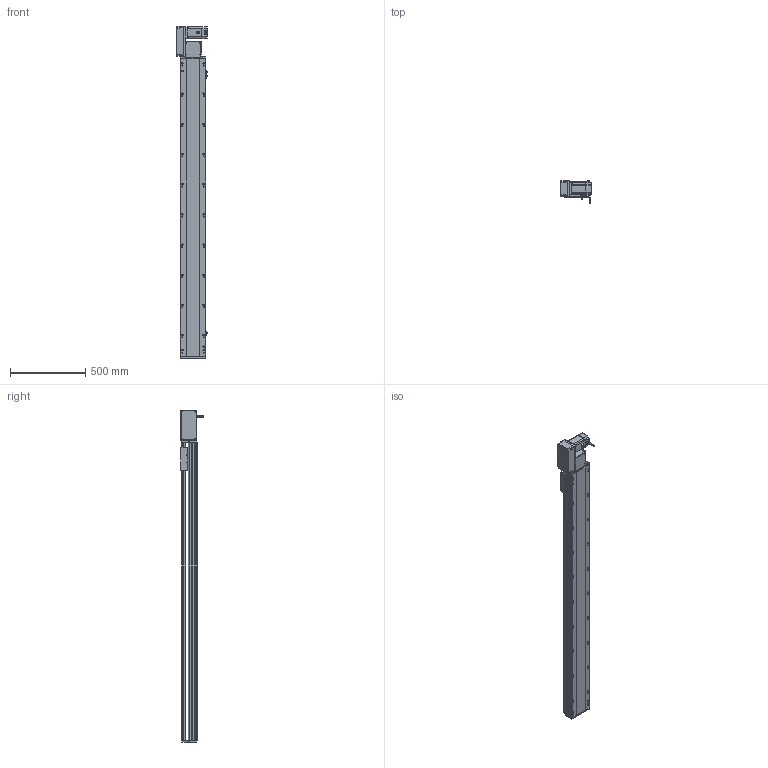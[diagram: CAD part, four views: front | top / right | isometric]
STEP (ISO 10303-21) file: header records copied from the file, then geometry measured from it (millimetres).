
FILE_DESCRIPTION (( 'STEP AP214' ), '1' );
FILE_NAME ('RTB17S-XX-1700-L-M75-C4.STEP', '2025-12-12T00:17:02', ( '' ), ( '' ), 'SwSTEP 2.0', 'SolidWorks 2018', '' );
FILE_SCHEMA (( 'AUTOMOTIVE_DESIGN' ));
Length unit declared in the file: millimetre
Products named in the file (15): RTB22S-GY-018P^RTB17S-L-々湍釱蚾饜-750W_RTB17S-XX-XX-L-M75-C4; RTB22S-GY-017P^RTB17S-L-々湍釱蚾饜-750W_RTB17S-XX-XX-L-M75-C4; RTB22S-GY-008-M75--萇儂啣^RTB17S-L-々湍釱蚾饜-750W_RTB17S-XX-XX-L-M75-C4; 750W萇儂^RTB17S-XX-XX-L-M75-C4; RTB17S-L-007奻裔^RTB17S-XX-XX-L-M75-C4; RTB17S-賑釱^RTB17S-XX-XX-L-M75-C4; RTB17S-L-004-賑釱^RTB17S-賑釱_RTB17S-XX-XX-L-M75-C4; RTB17S-L-001-耜醱啣^RTB17S-XX-XX-L-M75-C4; RTB17S-XX-1700-L-M75-C4; EE672^RTB17S-XX-XX-L-M75-C4; RTB17-R-011菁釱^RTB17S-XX-XX-L-M75-C4; RMP17S-L-014-T20-P75--々湍釱^RTB17S-L-々湍釱蚾饜-750W_RTB17S-XX-XX-L-M75-C4; RTB22S-GY-005P^RTB17S-L-々湍釱蚾饜-750W_RTB17S-XX-XX-L-M75-C4; RTH13-BL-012覜茼え俋离^RTB17S-賑釱_RTB17S-XX-XX-L-M75-C4; RTB17S-L-々湍釱蚾饜-750W^RTB17S-XX-XX-L-M75-C4
Assembly tree (17 placements, depth 3):
  RTB17S-XX-1700-L-M75-C4
    RTB17-R-011菁釱^RTB17S-XX-XX-L-M75-C4
    EE672^RTB17S-XX-XX-L-M75-C4  x3
    RTB17S-L-001-耜醱啣^RTB17S-XX-XX-L-M75-C4
    RTB17S-賑釱^RTB17S-XX-XX-L-M75-C4
      RTB17S-L-004-賑釱^RTB17S-賑釱_RTB17S-XX-XX-L-M75-C4
      RTH13-BL-012覜茼え俋离^RTB17S-賑釱_RTB17S-XX-XX-L-M75-C4
    RTB17S-L-007奻裔^RTB17S-XX-XX-L-M75-C4
    750W萇儂^RTB17S-XX-XX-L-M75-C4
    RTB17S-L-々湍釱蚾饜-750W^RTB17S-XX-XX-L-M75-C4
      RMP17S-L-014-T20-P75--々湍釱^RTB17S-L-々湍釱蚾饜-750W_RTB17S-XX-XX-L-M75-C4
      RTB22S-GY-005P^RTB17S-L-々湍釱蚾饜-750W_RTB17S-XX-XX-L-M75-C4
      RTB22S-GY-017P^RTB17S-L-々湍釱蚾饜-750W_RTB17S-XX-XX-L-M75-C4  x2
      RTB22S-GY-008-M75--萇儂啣^RTB17S-L-々湍釱蚾饜-750W_RTB17S-XX-XX-L-M75-C4
      RTB22S-GY-018P^RTB17S-L-々湍釱蚾饜-750W_RTB17S-XX-XX-L-M75-C4
Bounding box: 210.4 x 152.7 x 2199 mm (x, y, z)
Volume: 16574329.2 mm3; surface area: 2931648.8 mm2
Topology: 17 solids, 17 shells, 2153 faces, 5998 edges, 3878 vertices
Faces by surface type: plane 978, cylinder 759, bspline 294, cone 110, sphere 8, torus 4
Entity records: 61174 total; most frequent: CARTESIAN_POINT 18062, ORIENTED_EDGE 8840, DIRECTION 8222, EDGE_CURVE 4420, AXIS2_PLACEMENT_3D 2898, VERTEX_POINT 2882, VECTOR 2426, LINE 2426
